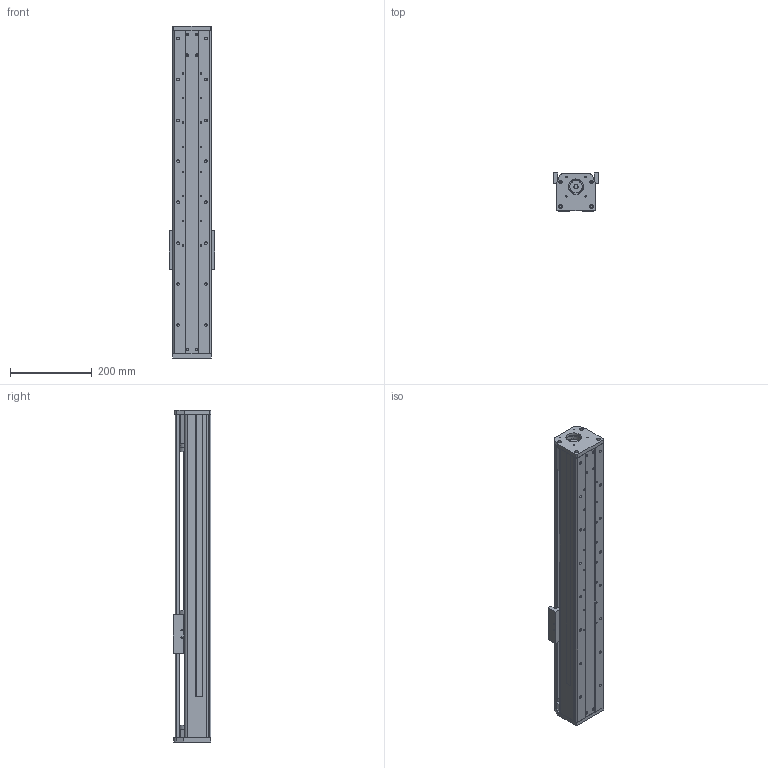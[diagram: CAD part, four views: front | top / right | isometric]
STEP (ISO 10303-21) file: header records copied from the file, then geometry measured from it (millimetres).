
FILE_DESCRIPTION (( 'STEP AP203' ), '1' );
FILE_NAME ('CF95-2-P550.STEP', '2016-02-22T07:31:52', ( 'Sky123.Org' ), ( 'Sky123.Org' ), 'SwSTEP 2.0', 'SolidWorks 2015', '' );
FILE_SCHEMA (( 'CONFIG_CONTROL_DESIGN' ));
Length unit declared in the file: millimetre
Products named in the file (19): CF95-2-P550; 95盓厥傷; SFS1610-520; 坶踡蹟譫M12-1; 95裔啣-1; 95-2邧寢賑輸; HGR15絳寢; SFU1604-3; hGH15CA賑輸; 95滅袉蝶菜; CF95-57萇儂假蚾啣; 95-2耜啣; CF95固定座（配30-42联轴器）; deep groove ball bearings gb_Rolling bearings 6001 GB 276-94; angular contact ball bearings gb_Rolling bearings S7001 GB 292-94; CF95-2臏倰第; circlips for shaft--type a large gb_GB_CONNECTING_PIECE_RING_RRA 12; 30-42薊粣ん; 95粣創裔啣
Assembly tree (22 placements, depth 2):
  CF95-2-P550
    CF95-2臏倰第
    95粣創裔啣
    SFS1610-520
    95裔啣-1
    HGR15絳寢  x2
    hGH15CA賑輸  x2
    CF95-57萇儂假蚾啣
    CF95固定座（配30-42联轴器）
    angular contact ball bearings gb_Rolling bearings S7001 GB 292-94  x2
    30-42薊粣ん
    95盓厥傷
    坶踡蹟譫M12-1
    95-2邧寢賑輸
    SFU1604-3
    95滅袉蝶菜  x2
    95-2耜啣
    deep groove ball bearings gb_Rolling bearings 6001 GB 276-94
    circlips for shaft--type a large gb_GB_CONNECTING_PIECE_RING_RRA 12
Bounding box: 110 x 92.5 x 811 mm (x, y, z)
Volume: 2763249.9 mm3; surface area: 873224.4 mm2
Topology: 22 solids, 22 shells, 1357 faces, 4302 edges, 2862 vertices
Faces by surface type: cylinder 575, plane 528, torus 159, sphere 84, cone 10, bspline 1
Entity records: 43820 total; most frequent: CARTESIAN_POINT 11572, ORIENTED_EDGE 6450, DIRECTION 6336, EDGE_CURVE 3225, AXIS2_PLACEMENT_3D 2499, VERTEX_POINT 2139, EDGE_LOOP 1380, CIRCLE 1369
